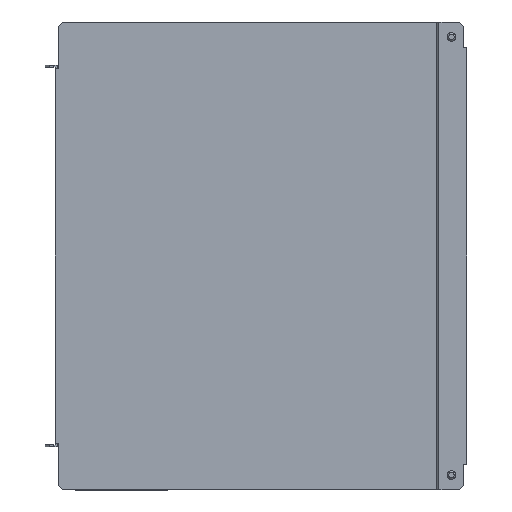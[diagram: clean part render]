
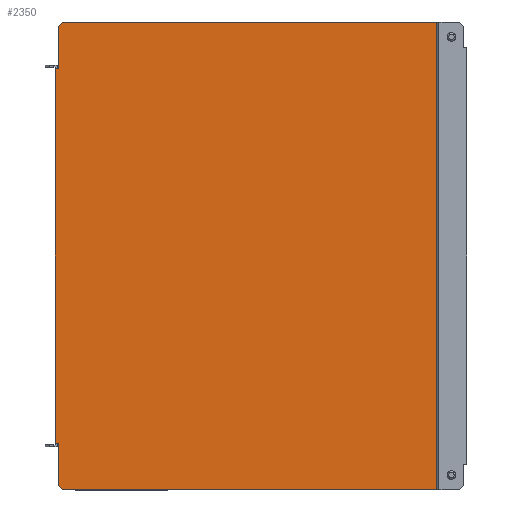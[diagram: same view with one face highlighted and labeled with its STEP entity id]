
A CAD part, front view. The second image highlights one B-rep face of the part: STEP entity #2350.
In plain terms, the highlighted planar face has unit normal (0, -1, 0).
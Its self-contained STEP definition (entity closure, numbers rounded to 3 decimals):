
#13 = DIRECTION ( 'NONE',  ( 0., -1., 0. ) ) ;
#30 = VECTOR ( 'NONE', #3209, 1000. ) ;
#81 = CARTESIAN_POINT ( 'NONE',  ( -235.5, 1.5, -235.5 ) ) ;
#89 = EDGE_CURVE ( 'NONE', #2845, #1562, #765, .T. ) ;
#112 = LINE ( 'NONE', #1107, #2371 ) ;
#147 = VERTEX_POINT ( 'NONE', #1989 ) ;
#245 = VECTOR ( 'NONE', #2330, 1000. ) ;
#293 = VERTEX_POINT ( 'NONE', #3249 ) ;
#305 = LINE ( 'NONE', #1980, #2698 ) ;
#322 = ORIENTED_EDGE ( 'NONE', *, *, #4208, .T. ) ;
#392 = EDGE_CURVE ( 'NONE', #293, #2575, #3629, .T. ) ;
#400 = EDGE_CURVE ( 'NONE', #3384, #147, #112, .T. ) ;
#457 = VECTOR ( 'NONE', #2645, 1000. ) ;
#464 = VERTEX_POINT ( 'NONE', #2976 ) ;
#471 = DIRECTION ( 'NONE',  ( -1., 0., 0. ) ) ;
#529 = EDGE_CURVE ( 'NONE', #2982, #4093, #2125, .T. ) ;
#633 = VERTEX_POINT ( 'NONE', #2183 ) ;
#663 = CARTESIAN_POINT ( 'NONE',  ( 0., 1.5, 0. ) ) ;
#765 = LINE ( 'NONE', #1716, #457 ) ;
#866 = CARTESIAN_POINT ( 'NONE',  ( -300.8, 1.5, 139. ) ) ;
#867 = EDGE_CURVE ( 'NONE', #3608, #3927, #1365, .T. ) ;
#897 = CARTESIAN_POINT ( 'NONE',  ( -300.5, 1.5, -173.5 ) ) ;
#1090 = DIRECTION ( 'NONE',  ( 0., 0., -1. ) ) ;
#1107 = CARTESIAN_POINT ( 'NONE',  ( -20.925, 1.5, -173.5 ) ) ;
#1113 = EDGE_CURVE ( 'NONE', #1562, #2294, #1630, .T. ) ;
#1281 = DIRECTION ( 'NONE',  ( -0.707, 0., -0.707 ) ) ;
#1315 = LINE ( 'NONE', #897, #4089 ) ;
#1362 = ORIENTED_EDGE ( 'NONE', *, *, #529, .T. ) ;
#1365 = LINE ( 'NONE', #3943, #245 ) ;
#1380 = CARTESIAN_POINT ( 'NONE',  ( -20.511, 1.5, 173.5 ) ) ;
#1406 = CARTESIAN_POINT ( 'NONE',  ( -297.5, 1.5, 173.5 ) ) ;
#1465 = VECTOR ( 'NONE', #4039, 1000. ) ;
#1520 = ORIENTED_EDGE ( 'NONE', *, *, #4116, .F. ) ;
#1562 = VERTEX_POINT ( 'NONE', #2253 ) ;
#1601 = VECTOR ( 'NONE', #2441, 1000. ) ;
#1630 = LINE ( 'NONE', #3960, #2054 ) ;
#1636 = EDGE_CURVE ( 'NONE', #2982, #2575, #305, .T. ) ;
#1716 = CARTESIAN_POINT ( 'NONE',  ( -300.8, 1.5, -139. ) ) ;
#1722 = ORIENTED_EDGE ( 'NONE', *, *, #2468, .F. ) ;
#1767 = ORIENTED_EDGE ( 'NONE', *, *, #3919, .T. ) ;
#1854 = CARTESIAN_POINT ( 'NONE',  ( -303.3, 1.5, 139. ) ) ;
#1959 = CARTESIAN_POINT ( 'NONE',  ( -20.925, 1.5, -173.5 ) ) ;
#1980 = CARTESIAN_POINT ( 'NONE',  ( -300.8, 1.5, 139. ) ) ;
#1989 = CARTESIAN_POINT ( 'NONE',  ( -20.511, 1.5, -173.5 ) ) ;
#1998 = LINE ( 'NONE', #2317, #30 ) ;
#2012 = ORIENTED_EDGE ( 'NONE', *, *, #1113, .T. ) ;
#2028 = DIRECTION ( 'NONE',  ( 1., 0., 0. ) ) ;
#2040 = ORIENTED_EDGE ( 'NONE', *, *, #867, .T. ) ;
#2054 = VECTOR ( 'NONE', #2263, 1000. ) ;
#2100 = CARTESIAN_POINT ( 'NONE',  ( 0., 1.5, 173.5 ) ) ;
#2125 = LINE ( 'NONE', #3140, #3799 ) ;
#2183 = CARTESIAN_POINT ( 'NONE',  ( -297.5, 1.5, -173.5 ) ) ;
#2227 = PLANE ( 'NONE',  #2746 ) ;
#2253 = CARTESIAN_POINT ( 'NONE',  ( -300.5, 1.5, -139. ) ) ;
#2263 = DIRECTION ( 'NONE',  ( 0., 0., -1. ) ) ;
#2294 = VERTEX_POINT ( 'NONE', #3785 ) ;
#2317 = CARTESIAN_POINT ( 'NONE',  ( 0., 1.5, -139. ) ) ;
#2330 = DIRECTION ( 'NONE',  ( -1., 0., 0. ) ) ;
#2334 = CARTESIAN_POINT ( 'NONE',  ( -235.5, 1.5, 235.5 ) ) ;
#2337 = CARTESIAN_POINT ( 'NONE',  ( -20.925, 1.5, 173.5 ) ) ;
#2350 = ADVANCED_FACE ( 'NONE', ( #3512 ), #2227, .T. ) ;
#2371 = VECTOR ( 'NONE', #3953, 1000. ) ;
#2417 = LINE ( 'NONE', #3610, #1601 ) ;
#2427 = CARTESIAN_POINT ( 'NONE',  ( -300.5, 1.5, 139. ) ) ;
#2441 = DIRECTION ( 'NONE',  ( 0., 0., 1. ) ) ;
#2468 = EDGE_CURVE ( 'NONE', #464, #4093, #2985, .T. ) ;
#2553 = VERTEX_POINT ( 'NONE', #1380 ) ;
#2564 = LINE ( 'NONE', #2334, #3501 ) ;
#2575 = VERTEX_POINT ( 'NONE', #2427 ) ;
#2645 = DIRECTION ( 'NONE',  ( 1., 0., 0. ) ) ;
#2698 = VECTOR ( 'NONE', #2028, 1000. ) ;
#2746 = AXIS2_PLACEMENT_3D ( 'NONE', #663, #13, #2874 ) ;
#2767 = ORIENTED_EDGE ( 'NONE', *, *, #2877, .T. ) ;
#2845 = VERTEX_POINT ( 'NONE', #3934 ) ;
#2874 = DIRECTION ( 'NONE',  ( -1., 0., 0. ) ) ;
#2877 = EDGE_CURVE ( 'NONE', #147, #2553, #2417, .T. ) ;
#2881 = VECTOR ( 'NONE', #3962, 1000. ) ;
#2976 = CARTESIAN_POINT ( 'NONE',  ( -303.3, 1.5, -139. ) ) ;
#2982 = VERTEX_POINT ( 'NONE', #866 ) ;
#2985 = LINE ( 'NONE', #3309, #2881 ) ;
#2986 = ORIENTED_EDGE ( 'NONE', *, *, #400, .T. ) ;
#3057 = CARTESIAN_POINT ( 'NONE',  ( -300.5, 1.5, 173.5 ) ) ;
#3075 = EDGE_CURVE ( 'NONE', #3927, #293, #2564, .T. ) ;
#3140 = CARTESIAN_POINT ( 'NONE',  ( -300.8, 1.5, 139. ) ) ;
#3151 = LINE ( 'NONE', #2100, #1465 ) ;
#3175 = ORIENTED_EDGE ( 'NONE', *, *, #3410, .F. ) ;
#3209 = DIRECTION ( 'NONE',  ( -1., 0., 0. ) ) ;
#3233 = EDGE_LOOP ( 'NONE', ( #2040, #3857, #3995, #3479, #1362, #1722, #3175, #3976, #2012, #1767, #322, #2986, #2767, #1520 ) ) ;
#3249 = CARTESIAN_POINT ( 'NONE',  ( -300.5, 1.5, 170.5 ) ) ;
#3309 = CARTESIAN_POINT ( 'NONE',  ( -303.3, 1.5, 0. ) ) ;
#3368 = DIRECTION ( 'NONE',  ( 0.707, 0., -0.707 ) ) ;
#3384 = VERTEX_POINT ( 'NONE', #1959 ) ;
#3410 = EDGE_CURVE ( 'NONE', #2845, #464, #1998, .T. ) ;
#3479 = ORIENTED_EDGE ( 'NONE', *, *, #1636, .F. ) ;
#3501 = VECTOR ( 'NONE', #1281, 1000. ) ;
#3510 = DIRECTION ( 'NONE',  ( 1., 0., 0. ) ) ;
#3512 = FACE_OUTER_BOUND ( 'NONE', #3233, .T. ) ;
#3608 = VERTEX_POINT ( 'NONE', #2337 ) ;
#3610 = CARTESIAN_POINT ( 'NONE',  ( -20.511, 1.5, 0. ) ) ;
#3629 = LINE ( 'NONE', #3057, #3998 ) ;
#3751 = VECTOR ( 'NONE', #3368, 1000. ) ;
#3785 = CARTESIAN_POINT ( 'NONE',  ( -300.5, 1.5, -170.5 ) ) ;
#3799 = VECTOR ( 'NONE', #471, 1000. ) ;
#3857 = ORIENTED_EDGE ( 'NONE', *, *, #3075, .T. ) ;
#3919 = EDGE_CURVE ( 'NONE', #2294, #633, #3964, .T. ) ;
#3927 = VERTEX_POINT ( 'NONE', #1406 ) ;
#3934 = CARTESIAN_POINT ( 'NONE',  ( -300.8, 1.5, -139. ) ) ;
#3943 = CARTESIAN_POINT ( 'NONE',  ( 0., 1.5, 173.5 ) ) ;
#3953 = DIRECTION ( 'NONE',  ( 1., 0., 0. ) ) ;
#3960 = CARTESIAN_POINT ( 'NONE',  ( -300.5, 1.5, 173.5 ) ) ;
#3962 = DIRECTION ( 'NONE',  ( 0., 0., 1. ) ) ;
#3964 = LINE ( 'NONE', #81, #3751 ) ;
#3976 = ORIENTED_EDGE ( 'NONE', *, *, #89, .T. ) ;
#3995 = ORIENTED_EDGE ( 'NONE', *, *, #392, .T. ) ;
#3998 = VECTOR ( 'NONE', #1090, 1000. ) ;
#4039 = DIRECTION ( 'NONE',  ( 1., 0., 0. ) ) ;
#4089 = VECTOR ( 'NONE', #3510, 1000. ) ;
#4093 = VERTEX_POINT ( 'NONE', #1854 ) ;
#4116 = EDGE_CURVE ( 'NONE', #3608, #2553, #3151, .T. ) ;
#4208 = EDGE_CURVE ( 'NONE', #633, #3384, #1315, .T. ) ;
